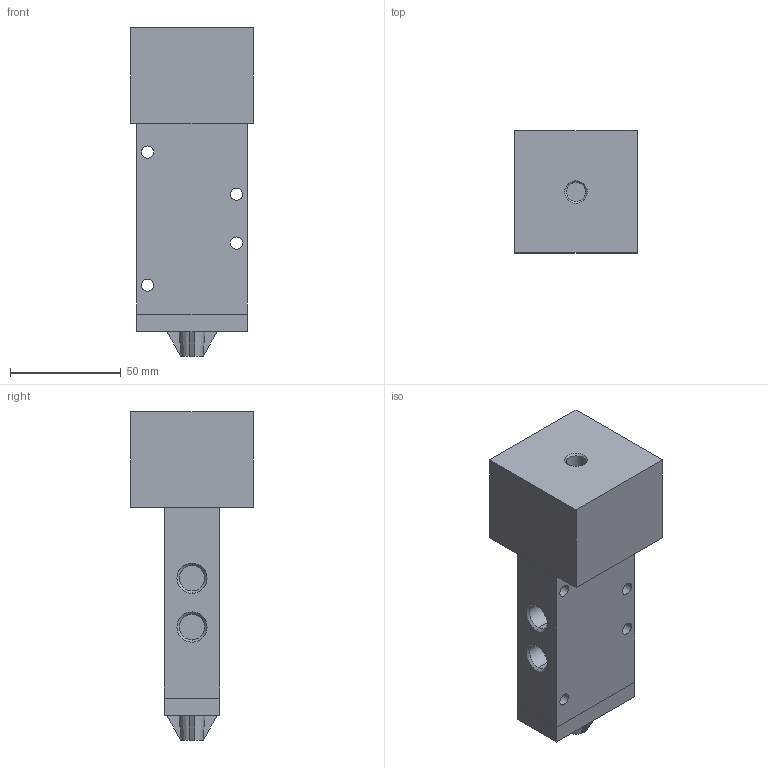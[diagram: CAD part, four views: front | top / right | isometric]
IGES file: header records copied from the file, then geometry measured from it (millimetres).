
Global section: file name: No Iges File Name specified; native system: AutoDesk Inventor R11.0; preprocessor: AutoDesk Inventor Iges Exporter R11.0; author: No Author specified; organization: No Organization specified; date: 20061219.092233; units: millimetre
Bounding box: 55 x 55 x 148 mm (x, y, z)
Volume: 239910.7 mm3; surface area: 33923.4 mm2
Topology: 1 solids, 1 shells, 71 faces, 168 edges, 108 vertices
Faces by surface type: bspline 30, plane 29, revolution 8, cone 4
